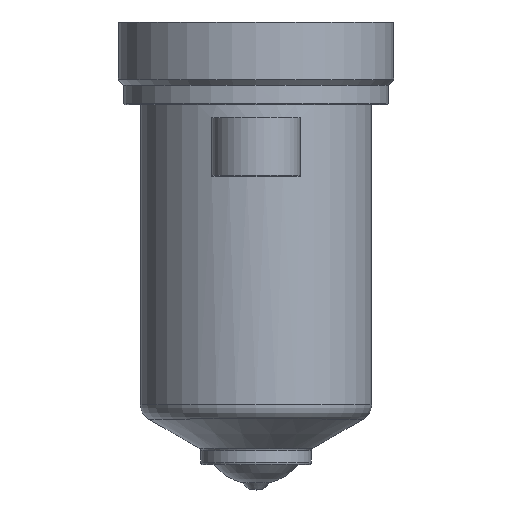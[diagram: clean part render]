
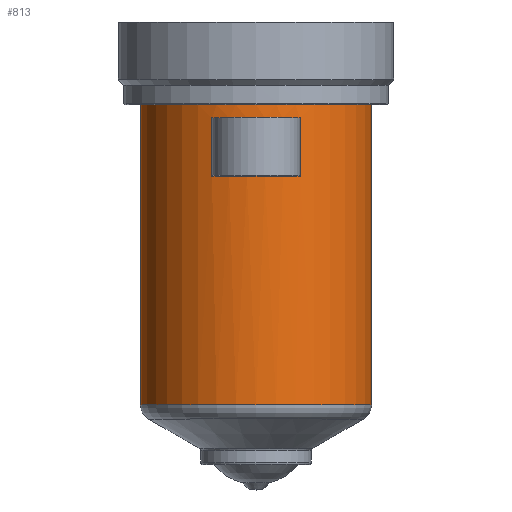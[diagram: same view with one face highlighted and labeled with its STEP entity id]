
A CAD part, top view. The second image highlights one B-rep face of the part: STEP entity #813.
In plain terms, the highlighted cylindrical face has radius 21 mm (diameter 42 mm), a partial arc.
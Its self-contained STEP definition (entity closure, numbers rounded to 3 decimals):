
#199=DIRECTION('',(0.,-1.,0.));
#200=VECTOR('',#199,54.528);
#201=CARTESIAN_POINT('',(21.,0.,0.));
#202=LINE('',#201,#200);
#203=CARTESIAN_POINT('',(0.,-54.528,0.));
#204=DIRECTION('',(0.,1.,0.));
#205=DIRECTION('',(-1.,0.,0.));
#206=AXIS2_PLACEMENT_3D('',#203,#204,#205);
#208=DIRECTION('',(0.,1.,0.));
#209=VECTOR('',#208,54.528);
#210=CARTESIAN_POINT('',(-21.,-54.528,0.));
#211=LINE('',#210,#209);
#212=CARTESIAN_POINT('',(0.,0.,0.));
#213=DIRECTION('',(0.,1.,0.));
#214=DIRECTION('',(-1.,0.,0.));
#215=AXIS2_PLACEMENT_3D('',#212,#213,#214);
#379=DIRECTION('',(0.,-1.,0.));
#380=VECTOR('',#379,10.5);
#381=CARTESIAN_POINT('',(-8.,-2.5,19.416));
#382=LINE('',#381,#380);
#383=CARTESIAN_POINT('',(0.,-13.,0.));
#384=DIRECTION('',(0.,1.,0.));
#385=DIRECTION('',(-0.381,0.,0.925));
#386=AXIS2_PLACEMENT_3D('',#383,#384,#385);
#409=CARTESIAN_POINT('',(0.,-2.5,0.));
#410=DIRECTION('',(0.,-1.,0.));
#411=DIRECTION('',(0.381,0.,0.925));
#412=AXIS2_PLACEMENT_3D('',#409,#410,#411);
#427=DIRECTION('',(0.,-1.,0.));
#428=VECTOR('',#427,10.5);
#429=CARTESIAN_POINT('',(8.,-2.5,19.416));
#430=LINE('',#429,#428);
#488=CARTESIAN_POINT('',(-21.,0.,0.));
#489=CARTESIAN_POINT('',(21.,0.,0.));
#490=VERTEX_POINT('',#488);
#491=VERTEX_POINT('',#489);
#500=CARTESIAN_POINT('',(-8.,-2.5,19.416));
#501=VERTEX_POINT('',#500);
#502=CARTESIAN_POINT('',(8.,-2.5,19.416));
#503=VERTEX_POINT('',#502);
#540=CARTESIAN_POINT('',(21.,-54.528,0.));
#541=VERTEX_POINT('',#540);
#550=CARTESIAN_POINT('',(-21.,-54.528,0.));
#551=VERTEX_POINT('',#550);
#572=CARTESIAN_POINT('',(-8.,-13.,19.416));
#573=CARTESIAN_POINT('',(8.,-13.,19.416));
#574=VERTEX_POINT('',#572);
#575=VERTEX_POINT('',#573);
#791=CARTESIAN_POINT('',(0.,16.4,0.));
#792=DIRECTION('',(0.,-1.,0.));
#793=DIRECTION('',(-1.,0.,0.));
#794=AXIS2_PLACEMENT_3D('',#791,#792,#793);
#795=CYLINDRICAL_SURFACE('',#794,21.);
#796=ORIENTED_EDGE('',*,*,#785,.T.);
#798=ORIENTED_EDGE('',*,*,#797,.F.);
#799=ORIENTED_EDGE('',*,*,#781,.T.);
#800=ORIENTED_EDGE('',*,*,#771,.T.);
#801=EDGE_LOOP('',(#796,#798,#799,#800));
#802=FACE_OUTER_BOUND('',#801,.F.);
#804=ORIENTED_EDGE('',*,*,#803,.T.);
#806=ORIENTED_EDGE('',*,*,#805,.T.);
#808=ORIENTED_EDGE('',*,*,#807,.F.);
#810=ORIENTED_EDGE('',*,*,#809,.T.);
#811=EDGE_LOOP('',(#804,#806,#808,#810));
#812=FACE_BOUND('',#811,.F.);
#813=ADVANCED_FACE('',(#802,#812),#795,.T.);
#207=CIRCLE('',#206,21.);
#216=CIRCLE('',#215,21.);
#387=CIRCLE('',#386,21.);
#413=CIRCLE('',#412,21.);
#771=EDGE_CURVE('',#490,#491,#216,.T.);
#781=EDGE_CURVE('',#551,#490,#211,.T.);
#785=EDGE_CURVE('',#491,#541,#202,.T.);
#797=EDGE_CURVE('',#551,#541,#207,.T.);
#803=EDGE_CURVE('',#501,#574,#382,.T.);
#805=EDGE_CURVE('',#574,#575,#387,.T.);
#807=EDGE_CURVE('',#503,#575,#430,.T.);
#809=EDGE_CURVE('',#503,#501,#413,.T.);
